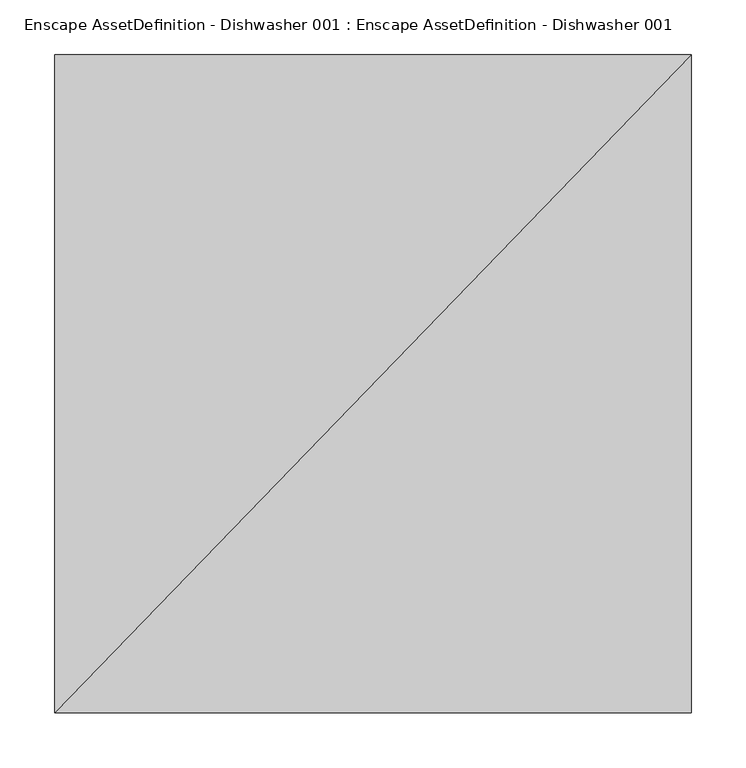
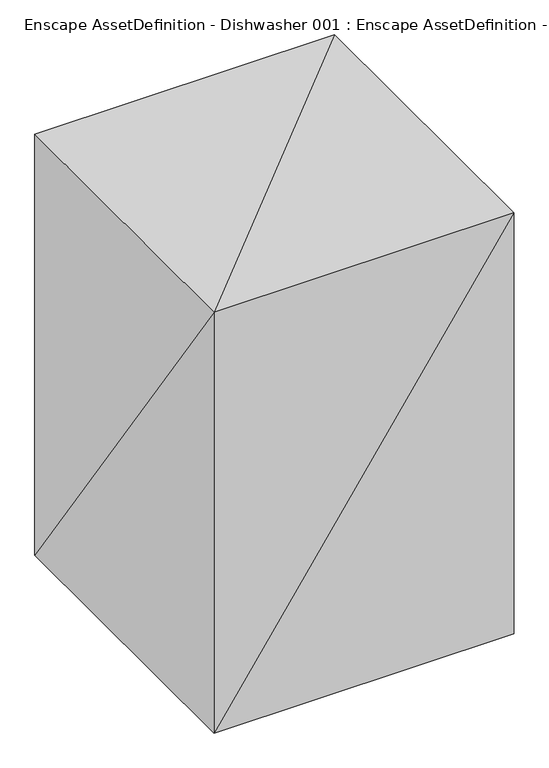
"""IFC4 building model written with IfcOpenShell, lengths in millimetres: geographic element geometry, Enscape AssetDefinition - Dishwasher 001 : Enscape AssetDefinition - Dishwasher 001."""

from ifc_helpers import new_model, si_unit, origin, place, context, project, spatial, faceted_brep, source, transform, mapped, element, save


def enscape_assetdefinition_dishwasher_001_enscape_6985d77f(model_context):
    return source(origin(), model_context, "Body", "Brep", [
        faceted_brep([(289.9999917, -600.0000238, 0.0), (-289.9999917, -600.0000238, 0.0), (289.9999917, 0.0, 0.0), (-289.9999917, 0.0, 860.0000143), (-289.9999917, -600.0000238, 860.0000143), (289.9999917, 0.0, 860.0000143), (289.9999917, -600.0000238, 860.0000143), (-289.9999917, 0.0, 0.0)], [[[0, 1, 2]], [[3, 4, 5]], [[4, 1, 6]], [[6, 0, 5]], [[5, 2, 3]], [[3, 7, 4]], [[2, 1, 7]], [[5, 4, 6]], [[6, 1, 0]], [[5, 0, 2]], [[3, 2, 7]], [[4, 7, 1]]]),
    ])


if __name__ == "__main__":
    model = new_model("IFC4")
    model_context = context("Model", 3, world=origin())
    ifc_project = project(units=[si_unit("LENGTHUNIT", "METRE", prefix="MILLI")], contexts=[model_context])
    site = spatial("IfcSite", under=ifc_project)
    building = spatial("IfcBuilding", under=site)
    placement = place(None, origin())
    enscape_assetdefinition_dishwasher_001_enscape_shape = enscape_assetdefinition_dishwasher_001_enscape_6985d77f(model_context)
    element("IfcGeographicElement", 1, ObjectType="Enscape AssetDefinition - Dishwasher 001 : Enscape AssetDefinition - Dishwasher 001", at=placement, inside=building, context=model_context, shape_type="MappedRepresentation", body=[
        mapped(enscape_assetdefinition_dishwasher_001_enscape_shape, transform((0.0, 0.0, 0.0), x_axis=(1.0, 0.0, 0.0), y_axis=(0.0, 1.0, 0.0), z_axis=(0.0, 0.0, 1.0))),
    ])
    save(model, "model.ifc")
